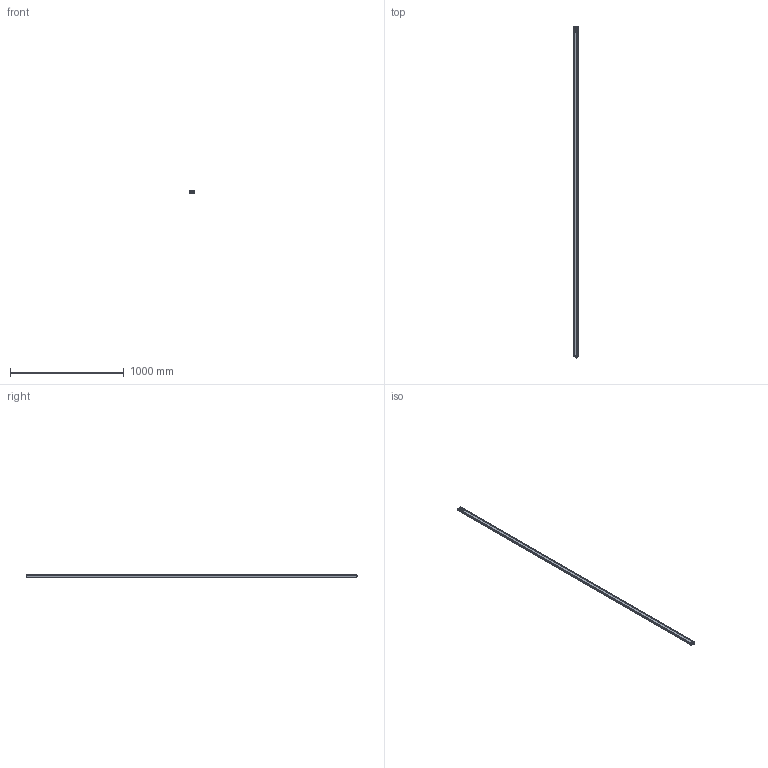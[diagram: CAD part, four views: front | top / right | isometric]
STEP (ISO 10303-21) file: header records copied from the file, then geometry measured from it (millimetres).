
FILE_DESCRIPTION(/* description */ (''),/* implementation_level */ '2;1');
FILE_NAME(/* name */ 'C:\Users\andre\SynologyDrive\Optoscan\Libreria Componenti\00 - Barriere\Polaris sorgente\Barriera Polaris RX\Polaris_2900_RX.stp',/* time_stamp */ '2021-06-04T12:13:44+02:00',/* author */ ('andre'),/* organization */ (''),/* preprocessor_version */ 'ST-DEVELOPER v18',/* originating_system */ 'Autodesk Inventor 2020',/* authorisation */ '');
FILE_SCHEMA (('AUTOMOTIVE_DESIGN { 1 0 10303 214 3 1 1 }'));
Length unit declared in the file: millimetre
Products named in the file (1): Polaris_2900_RX
Bounding box: 40.5 x 2913.3 x 20.75 mm (x, y, z)
Volume: 571580.9 mm3; surface area: 761297 mm2
Topology: 1 solids, 1 shells, 684 faces, 1882 edges, 1205 vertices
Faces by surface type: plane 315, cylinder 195, bspline 94, torus 62, sphere 10, cone 8
Full cylindrical faces by diameter (mm): 1 x8, 2.5 x4, 3 x4, 3.5 x4, 5.5 x4, 8 x1, 10.5 x2, 11.75 x9, 15.7 x1, 17.5 x1
Entity records: 27899 total; most frequent: CARTESIAN_POINT 10154, ORIENTED_EDGE 3738, DIRECTION 3331, EDGE_CURVE 1869, VERTEX_POINT 1205, AXIS2_PLACEMENT_3D 1155, LINE 1021, VECTOR 1021
